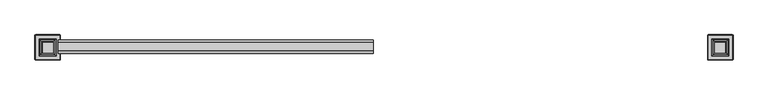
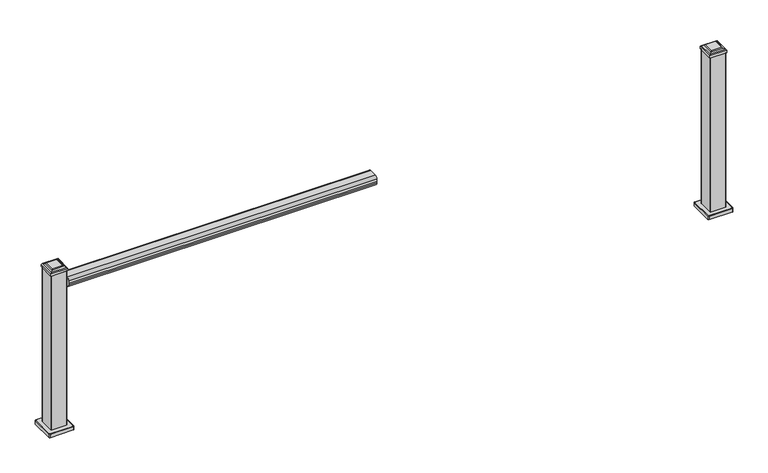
"""IFC4 building model written with IfcOpenShell, lengths in millimetres: railing geometry, NewTechWood - Brazilian Ipe."""

from ifc_helpers import new_model, si_unit, point, frame, frame_2d, origin, place, context, project, spatial, polyline, circle_curve, ellipse_curve, trimmed, segment, composite_curve, outline, extrude, faceted_brep, source, transform, mapped, element, save
from ifc_brep_helpers import plane_surface, cylinder_surface, revolved_surface, advanced_brep


def railing_560219fa(model_context):
    return source(origin(), model_context, "Body", "SolidModel", [
        extrude(outline(composite_curve([segment(polyline([(11543.636591, 859.0161325), (11499.2718146, 859.0161325)]), True, "CONTINUOUS"), segment(trimmed(circle_curve(frame_2d((11499.2718146, 875.7552917)), 16.7391591), [point((11499.2718146, 859.0161325))], [point((11482.5326554, 875.7552917))], False, "CARTESIAN"), True, "CONTINUOUS"), segment(polyline([(11482.5326554, 875.7552917), (11482.5326554, 885.3278473)]), True, "CONTINUOUS"), segment(trimmed(circle_curve(frame_2d((11469.6196989, 891.6660673)), 14.3846265), [point((11482.5326554, 885.3278473))], [point((11482.0441367, 898.9152621))], True, "CARTESIAN"), True, "CONTINUOUS"), segment(trimmed(circle_curve(frame_2d((11497.612742, 898.9152621)), 15.5686053), [point((11482.0441367, 898.9152621))], [point((11497.612742, 914.4838675))], False, "CARTESIAN"), True, "CONTINUOUS"), segment(polyline([(11497.612742, 914.4838675), (11545.2956636, 914.4838675)]), True, "CONTINUOUS"), segment(trimmed(circle_curve(frame_2d((11545.2956636, 898.9152621)), 15.5686053), [point((11545.2956636, 914.4838675))], [point((11560.8642689, 898.9152621))], False, "CARTESIAN"), True, "CONTINUOUS"), segment(trimmed(circle_curve(frame_2d((11573.2887067, 891.6660673)), 14.3846265), [point((11560.8642689, 898.9152621))], [point((11560.3757501, 885.3278473))], True, "CARTESIAN"), True, "CONTINUOUS"), segment(polyline([(11560.3757501, 885.3278473), (11560.3757501, 875.7552917)]), True, "CONTINUOUS"), segment(trimmed(circle_curve(frame_2d((11543.636591, 875.7552917)), 16.7391591), [point((11560.3757501, 875.7552917))], [point((11543.636591, 859.0161325))], False, "CARTESIAN"), True, "CONTINUOUS")], self_intersect=False)), frame((29718.291138, 0.0, 0.0), z_axis=(1.0, 0.0, 0.0), x_axis=(0.0, 1.0, 0.0)), (0.0, 0.0, 1.0), 1799.0),
        advanced_brep(
        [(33570.3131693, 11447.5944784, 22.5), (33573.4727366, 11450.7540458, 22.5), (33573.4727366, 11585.4340458, 22.5), (33570.3131693, 11588.5936132, 22.5), (33435.6331693, 11588.5936132, 22.5), (33432.4736019, 11585.4340458, 22.5), (33432.4736019, 11450.7540458, 22.5), (33435.6331693, 11447.5944784, 22.5), (33430.4731693, 11585.4340458, 0.0), (33435.6331693, 11590.5940458, 0.0), (33570.3131693, 11590.5940458, 0.0), (33575.4731693, 11585.4340458, 0.0), (33575.4731693, 11450.7540458, 0.0), (33570.3131693, 11445.5940458, 0.0), (33435.6331693, 11445.5940458, 0.0), (33430.4731693, 11450.7540458, 0.0), (33430.4731693, 11450.7540458, 20.4995674), (33430.4731693, 11585.4340458, 20.4995674), (33435.6331693, 11445.5940458, 20.499569), (33570.3131693, 11445.5940458, 20.499569), (33575.4731693, 11450.7540458, 20.4995691), (33575.4731693, 11585.4340458, 20.4995674), (33570.3131693, 11590.5940458, 20.4995692), (33435.6331693, 11590.5940458, 20.4995674)],
        [
            (0, 1, circle_curve(frame((33570.3131693, 11450.7540458, 22.5), z_axis=(0.0, 0.0, 1.0), x_axis=(0.0, -1.0, 0.0)), 3.1595674)),
            (1, 2),
            (2, 3, circle_curve(frame((33570.3131693, 11585.4340458, 22.5), z_axis=(0.0, 0.0, 1.0), x_axis=(1.0, 0.0, 0.0)), 3.1595674)),
            (3, 4),
            (4, 5, circle_curve(frame((33435.6331693, 11585.4340458, 22.5), z_axis=(0.0, 0.0, 1.0), x_axis=(0.0, 1.0, 0.0)), 3.1595674)),
            (5, 6),
            (6, 7, circle_curve(frame((33435.6331693, 11450.7540458, 22.5), z_axis=(0.0, 0.0, 1.0), x_axis=(-1.0, 0.0, 0.0)), 3.1595674)),
            (7, 0),
            (8, 9, circle_curve(frame((33435.6331693, 11585.4340458, 0.0), z_axis=(0.0, 0.0, -1.0), x_axis=(0.0, 1.0, 0.0)), 5.16)),
            (9, 10),
            (10, 11, circle_curve(frame((33570.3131693, 11585.4340458, 0.0), z_axis=(0.0, 0.0, -1.0), x_axis=(0.0, 1.0, 0.0)), 5.16)),
            (11, 12),
            (12, 13, circle_curve(frame((33570.3131693, 11450.7540458, 0.0), z_axis=(0.0, 0.0, -1.0), x_axis=(0.0, 1.0, 0.0)), 5.16)),
            (13, 14),
            (14, 15, circle_curve(frame((33435.6331693, 11450.7540458, 0.0), z_axis=(0.0, 0.0, -1.0), x_axis=(0.0, 1.0, 0.0)), 5.16)),
            (15, 8),
            (15, 16),
            (16, 17),
            (17, 8),
            (14, 18),
            (18, 16, circle_curve(frame((33435.6331693, 11450.7540458, 20.4995674), z_axis=(0.0, 0.0, -1.0), x_axis=(0.0, 1.0, 0.0)), 5.16)),
            (13, 19),
            (19, 18),
            (12, 20),
            (20, 19, circle_curve(frame((33570.3131693, 11450.7540458, 20.4995674), z_axis=(0.0, 0.0, -1.0), x_axis=(0.0, 1.0, 0.0)), 5.16)),
            (11, 21),
            (21, 20),
            (10, 22),
            (22, 21, circle_curve(frame((33570.3131693, 11585.4340458, 20.4995674), z_axis=(0.0, 0.0, -1.0), x_axis=(0.0, 1.0, 0.0)), 5.16)),
            (9, 23),
            (23, 22),
            (17, 23, circle_curve(frame((33435.6331693, 11585.4340458, 20.4995674), z_axis=(0.0, 0.0, -1.0), x_axis=(0.0, 1.0, 0.0)), 5.16)),
            (20, 1, circle_curve(frame((33573.4727366, 11450.7540458, 20.4995674), z_axis=(0.0, -1.0, 0.0), x_axis=(-1.0, 0.0, 0.0)), 2.0004326)),
            (0, 19, circle_curve(frame((33570.3131693, 11447.5944784, 20.4995674), z_axis=(1.0, 0.0, 0.0), x_axis=(0.0, 1.0, 0.0)), 2.0004326)),
            (21, 2, circle_curve(frame((33573.4727366, 11585.4340458, 20.4995674), z_axis=(0.0, -1.0, 0.0), x_axis=(-1.0, 0.0, 0.0)), 2.0004326)),
            (22, 3, circle_curve(frame((33570.3131693, 11588.5936132, 20.4995674), z_axis=(1.0, 0.0, 0.0), x_axis=(0.0, -1.0, 0.0)), 2.0004326)),
            (23, 4, circle_curve(frame((33435.6331693, 11588.5936132, 20.4995674), z_axis=(1.0, 0.0, 0.0), x_axis=(0.0, -1.0, 0.0)), 2.0004326)),
            (17, 5, circle_curve(frame((33432.4736019, 11585.4340458, 20.4995674), z_axis=(0.0, 1.0, 0.0), x_axis=(1.0, 0.0, 0.0)), 2.0004326)),
            (16, 6, circle_curve(frame((33432.4736019, 11450.7540458, 20.4995674), z_axis=(0.0, 1.0, 0.0), x_axis=(1.0, 0.0, 0.0)), 2.0004326)),
            (18, 7, circle_curve(frame((33435.6331693, 11447.5944784, 20.4995674), z_axis=(-1.0, 0.0, 0.0), x_axis=(0.0, 1.0, 0.0)), 2.0004326)),
        ],
        [
            plane_surface(frame((33430.4731693, 11558.658052, 22.5), z_axis=(0.0, 0.0, 1.0), x_axis=(0.0, -1.0, 0.0))),
            plane_surface(frame((33430.4731693, 11558.658052, 0.0), z_axis=(0.0, 0.0, -1.0), x_axis=(0.0, 1.0, 0.0))),
            plane_surface(frame((33430.4731693, 11585.4340458, 22.5), z_axis=(-1.0, 0.0, 0.0), x_axis=(0.0, 0.0, -1.0))),
            cylinder_surface(frame((33435.6331693, 11450.7540458, 0.0), z_axis=(0.0, 0.0, 1.0), x_axis=(0.0, 1.0, 0.0)), 5.16),
            plane_surface(frame((33435.6331693, 11445.5940458, 22.5), z_axis=(0.0, -1.0, 0.0), x_axis=(0.0, 0.0, -1.0))),
            cylinder_surface(frame((33570.3131693, 11450.7540458, 0.0), z_axis=(0.0, 0.0, 1.0), x_axis=(0.0, 1.0, 0.0)), 5.16),
            plane_surface(frame((33575.4731693, 11450.7540458, 22.5), z_axis=(1.0, 0.0, 0.0), x_axis=(0.0, 0.0, -1.0))),
            cylinder_surface(frame((33570.3131693, 11585.4340458, 0.0), z_axis=(0.0, 0.0, 1.0), x_axis=(0.0, 1.0, 0.0)), 5.16),
            plane_surface(frame((33570.3131693, 11590.5940458, 22.5), z_axis=(0.0, 1.0, 0.0), x_axis=(0.0, 0.0, -1.0))),
            cylinder_surface(frame((33435.6331693, 11585.4340458, 0.0), z_axis=(0.0, 0.0, 1.0), x_axis=(0.0, 1.0, 0.0)), 5.16),
            revolved_surface(trimmed(ellipse_curve(frame((33570.3131693, 11447.5944784, 20.4995674), z_axis=(-1.0, 0.0, 0.0), x_axis=(0.0, 1.0, 0.0)), 2.0004326, 2.0004326), [point((33570.3131693, 11445.5940458, 20.4995674))], [point((33570.3131693, 11447.5944784, 22.5))], True, "CARTESIAN"), (33570.3131693, 11450.7540458, 22.5), (0.0, 0.0, 1.0)),
            cylinder_surface(frame((33573.4727366, 11450.7540458, 20.4995674), z_axis=(0.0, 1.0, 0.0), x_axis=(-1.0, 0.0, 0.0)), 2.0004326),
            revolved_surface(trimmed(ellipse_curve(frame((33573.4727366, 11585.4340458, 20.4995674), z_axis=(0.0, -1.0, 0.0), x_axis=(-1.0, 0.0, 0.0)), 2.0004326, 2.0004326), [point((33575.4731693, 11585.4340458, 20.4995674))], [point((33573.4727366, 11585.4340458, 22.5))], True, "CARTESIAN"), (33570.3131693, 11585.4340458, 22.5), (0.0, 0.0, 1.0)),
            cylinder_surface(frame((33570.3131693, 11588.5936132, 20.4995674), z_axis=(-1.0, 0.0, 0.0), x_axis=(0.0, -1.0, 0.0)), 2.0004326),
            revolved_surface(trimmed(ellipse_curve(frame((33435.6331693, 11588.5936132, 20.4995674), z_axis=(1.0, 0.0, 0.0), x_axis=(0.0, -1.0, 0.0)), 2.0004326, 2.0004326), [point((33435.6331693, 11590.5940458, 20.4995674))], [point((33435.6331693, 11588.5936132, 22.5))], True, "CARTESIAN"), (33435.6331693, 11585.4340458, 22.5), (0.0, 0.0, 1.0)),
            cylinder_surface(frame((33432.4736019, 11585.4340458, 20.4995674), z_axis=(0.0, -1.0, 0.0), x_axis=(1.0, 0.0, 0.0)), 2.0004326),
            revolved_surface(trimmed(ellipse_curve(frame((33432.4736019, 11450.7540458, 20.4995674), z_axis=(0.0, 1.0, 0.0), x_axis=(1.0, 0.0, 0.0)), 2.0004326, 2.0004326), [point((33430.4731693, 11450.7540458, 20.4995674))], [point((33432.4736019, 11450.7540458, 22.5))], True, "CARTESIAN"), (33435.6331693, 11450.7540458, 22.5), (0.0, 0.0, 1.0)),
            cylinder_surface(frame((33435.6331693, 11447.5944784, 20.4995674), z_axis=(1.0, 0.0, 0.0), x_axis=(0.0, 1.0, 0.0)), 2.0004326),
        ],
        [
            (0, [[1, 2, 3, 4, 5, 6, 7, 8]]),
            (1, [[9, 10, 11, 12, 13, 14, 15, 16]]),
            (2, [[-16, 17, 18, 19]]),
            (3, [[-15, 20, 21, -17]]),
            (4, [[-14, 22, 23, -20]]),
            (5, [[-13, 24, 25, -22]]),
            (6, [[-12, 26, 27, -24]]),
            (7, [[-11, 28, 29, -26]]),
            (8, [[-10, 30, 31, -28]]),
            (9, [[-9, -19, 32, -30]]),
            (10, [[33, -1, 34, -25]]),
            (11, [[-33, -27, 35, -2]]),
            (12, [[-35, -29, 36, -3]]),
            (13, [[-36, -31, 37, -4]]),
            (14, [[-37, -32, 38, -5]]),
            (15, [[-38, -18, 39, -6]]),
            (16, [[-39, -21, 40, -7]]),
            (17, [[-34, -8, -40, -23]]),
        ],
    ),
        faceted_brep([(33552.0231693, 11469.0440458, 990.769699), (33552.0231693, 11469.0440458, 976.139699), (33552.0231693, 11567.1440458, 976.139699), (33552.0231693, 11567.1440458, 990.769699), (33547.9904932, 11473.0767219, 996.0825536), (33547.9904932, 11563.1113697, 996.0825536), (33538.7653855, 11482.3018295, 1000.5958992), (33538.7653855, 11553.886262, 1000.5958992), (33534.2686181, 11486.7985969, 1004.4), (33534.2686181, 11549.3894946, 1004.4), (33453.9231693, 11567.1440458, 976.139699), (33453.9231693, 11567.1440458, 990.769699), (33457.9558454, 11563.1113697, 996.0825536), (33467.180953, 11553.886262, 1000.5958992), (33471.6777204, 11549.3894946, 1004.4), (33453.9231693, 11469.0440458, 976.139699), (33453.9231693, 11469.0440458, 990.769699), (33457.9558454, 11473.0767219, 996.0825536), (33467.180953, 11482.3018295, 1000.5958992), (33471.6777204, 11486.7985969, 1004.4)], [[[0, 1, 2, 3]], [[4, 0, 3, 5]], [[6, 4, 5, 7]], [[8, 6, 7, 9]], [[3, 2, 10, 11]], [[5, 3, 11, 12]], [[7, 5, 12, 13]], [[9, 7, 13, 14]], [[11, 10, 15, 16]], [[12, 11, 16, 17]], [[13, 12, 17, 18]], [[14, 13, 18, 19]], [[16, 15, 1, 0]], [[17, 16, 0, 4]], [[18, 17, 4, 6]], [[19, 18, 6, 8]], [[9, 14, 19, 8]], [[1, 15, 10, 2]]]),
        extrude(outline(composite_curve([segment(trimmed(circle_curve(frame_2d((33459.3831693, 11474.5040458)), 3.61), [point((33459.3831693, 11470.8940458))], [point((33455.7731693, 11474.5040458))], False, "CARTESIAN"), True, "CONTINUOUS"), segment(polyline([(33455.7731693, 11474.5040458), (33455.7731693, 11561.6840458)]), True, "CONTINUOUS"), segment(trimmed(circle_curve(frame_2d((33459.3831693, 11561.6840458)), 3.61), [point((33455.7731693, 11561.6840458))], [point((33459.3831693, 11565.2940458))], False, "CARTESIAN"), True, "CONTINUOUS"), segment(polyline([(33459.3831693, 11565.2940458), (33546.5631693, 11565.2940458)]), True, "CONTINUOUS"), segment(trimmed(circle_curve(frame_2d((33546.5631693, 11561.6840458)), 3.61), [point((33546.5631693, 11565.2940458))], [point((33550.1731693, 11561.6840458))], False, "CARTESIAN"), True, "CONTINUOUS"), segment(polyline([(33550.1731693, 11561.6840458), (33550.1731693, 11474.5040458)]), True, "CONTINUOUS"), segment(trimmed(circle_curve(frame_2d((33546.5631693, 11474.5040458)), 3.61), [point((33550.1731693, 11474.5040458))], [point((33546.5631693, 11470.8940458))], False, "CARTESIAN"), True, "CONTINUOUS"), segment(polyline([(33546.5631693, 11470.8940458), (33459.3831693, 11470.8940458)]), True, "CONTINUOUS")], self_intersect=False)), frame((0.0, 0.0, 22.5), z_axis=(0.0, 0.0, 1.0), x_axis=(1.0, 0.0, 0.0)), (0.0, 0.0, 1.0), 953.639699),
        advanced_brep(
        [(29723.4037943, 11447.5944784, 22.5), (29726.5633616, 11450.7540458, 22.5), (29726.5633616, 11585.4340458, 22.5), (29723.4037943, 11588.5936132, 22.5), (29588.7237943, 11588.5936132, 22.5), (29585.5642269, 11585.4340458, 22.5), (29585.5642269, 11450.7540458, 22.5), (29588.7237943, 11447.5944784, 22.5), (29583.5637943, 11585.4340458, 0.0), (29588.7237943, 11590.5940458, 0.0), (29723.4037943, 11590.5940458, 0.0), (29728.5637943, 11585.4340458, 0.0), (29728.5637943, 11450.7540458, 0.0), (29723.4037943, 11445.5940458, 0.0), (29588.7237943, 11445.5940458, 0.0), (29583.5637943, 11450.7540458, 0.0), (29583.5637943, 11450.7540458, 20.4995674), (29583.5637943, 11585.4340458, 20.4995674), (29588.7237943, 11445.5940458, 20.499569), (29723.4037943, 11445.5940458, 20.499569), (29728.5637943, 11450.7540458, 20.4995691), (29728.5637943, 11585.4340458, 20.4995674), (29723.4037943, 11590.5940458, 20.4995692), (29588.7237943, 11590.5940458, 20.4995674)],
        [
            (0, 1, circle_curve(frame((29723.4037943, 11450.7540458, 22.5), z_axis=(0.0, 0.0, 1.0), x_axis=(0.0, -1.0, 0.0)), 3.1595674)),
            (1, 2),
            (2, 3, circle_curve(frame((29723.4037943, 11585.4340458, 22.5), z_axis=(0.0, 0.0, 1.0), x_axis=(1.0, 0.0, 0.0)), 3.1595674)),
            (3, 4),
            (4, 5, circle_curve(frame((29588.7237943, 11585.4340458, 22.5), z_axis=(0.0, 0.0, 1.0), x_axis=(0.0, 1.0, 0.0)), 3.1595674)),
            (5, 6),
            (6, 7, circle_curve(frame((29588.7237943, 11450.7540458, 22.5), z_axis=(0.0, 0.0, 1.0), x_axis=(-1.0, 0.0, 0.0)), 3.1595674)),
            (7, 0),
            (8, 9, circle_curve(frame((29588.7237943, 11585.4340458, 0.0), z_axis=(0.0, 0.0, -1.0), x_axis=(0.0, 1.0, 0.0)), 5.16)),
            (9, 10),
            (10, 11, circle_curve(frame((29723.4037943, 11585.4340458, 0.0), z_axis=(0.0, 0.0, -1.0), x_axis=(0.0, 1.0, 0.0)), 5.16)),
            (11, 12),
            (12, 13, circle_curve(frame((29723.4037943, 11450.7540458, 0.0), z_axis=(0.0, 0.0, -1.0), x_axis=(0.0, 1.0, 0.0)), 5.16)),
            (13, 14),
            (14, 15, circle_curve(frame((29588.7237943, 11450.7540458, 0.0), z_axis=(0.0, 0.0, -1.0), x_axis=(0.0, 1.0, 0.0)), 5.16)),
            (15, 8),
            (15, 16),
            (16, 17),
            (17, 8),
            (14, 18),
            (18, 16, circle_curve(frame((29588.7237943, 11450.7540458, 20.4995674), z_axis=(0.0, 0.0, -1.0), x_axis=(0.0, 1.0, 0.0)), 5.16)),
            (13, 19),
            (19, 18),
            (12, 20),
            (20, 19, circle_curve(frame((29723.4037943, 11450.7540458, 20.4995674), z_axis=(0.0, 0.0, -1.0), x_axis=(0.0, 1.0, 0.0)), 5.16)),
            (11, 21),
            (21, 20),
            (10, 22),
            (22, 21, circle_curve(frame((29723.4037943, 11585.4340458, 20.4995674), z_axis=(0.0, 0.0, -1.0), x_axis=(0.0, 1.0, 0.0)), 5.16)),
            (9, 23),
            (23, 22),
            (17, 23, circle_curve(frame((29588.7237943, 11585.4340458, 20.4995674), z_axis=(0.0, 0.0, -1.0), x_axis=(0.0, 1.0, 0.0)), 5.16)),
            (20, 1, circle_curve(frame((29726.5633616, 11450.7540458, 20.4995674), z_axis=(0.0, -1.0, 0.0), x_axis=(-1.0, 0.0, 0.0)), 2.0004326)),
            (0, 19, circle_curve(frame((29723.4037943, 11447.5944784, 20.4995674), z_axis=(1.0, 0.0, 0.0), x_axis=(0.0, 1.0, 0.0)), 2.0004326)),
            (21, 2, circle_curve(frame((29726.5633616, 11585.4340458, 20.4995674), z_axis=(0.0, -1.0, 0.0), x_axis=(-1.0, 0.0, 0.0)), 2.0004326)),
            (22, 3, circle_curve(frame((29723.4037943, 11588.5936132, 20.4995674), z_axis=(1.0, 0.0, 0.0), x_axis=(0.0, -1.0, 0.0)), 2.0004326)),
            (23, 4, circle_curve(frame((29588.7237943, 11588.5936132, 20.4995674), z_axis=(1.0, 0.0, 0.0), x_axis=(0.0, -1.0, 0.0)), 2.0004326)),
            (17, 5, circle_curve(frame((29585.5642269, 11585.4340458, 20.4995674), z_axis=(0.0, 1.0, 0.0), x_axis=(1.0, 0.0, 0.0)), 2.0004326)),
            (16, 6, circle_curve(frame((29585.5642269, 11450.7540458, 20.4995674), z_axis=(0.0, 1.0, 0.0), x_axis=(1.0, 0.0, 0.0)), 2.0004326)),
            (18, 7, circle_curve(frame((29588.7237943, 11447.5944784, 20.4995674), z_axis=(-1.0, 0.0, 0.0), x_axis=(0.0, 1.0, 0.0)), 2.0004326)),
        ],
        [
            plane_surface(frame((29583.5637943, 11558.658052, 22.5), z_axis=(0.0, 0.0, 1.0), x_axis=(0.0, -1.0, 0.0))),
            plane_surface(frame((29583.5637943, 11558.658052, 0.0), z_axis=(0.0, 0.0, -1.0), x_axis=(0.0, 1.0, 0.0))),
            plane_surface(frame((29583.5637943, 11585.4340458, 22.5), z_axis=(-1.0, 0.0, 0.0), x_axis=(0.0, 0.0, -1.0))),
            cylinder_surface(frame((29588.7237943, 11450.7540458, 0.0), z_axis=(0.0, 0.0, 1.0), x_axis=(0.0, 1.0, 0.0)), 5.16),
            plane_surface(frame((29588.7237943, 11445.5940458, 22.5), z_axis=(0.0, -1.0, 0.0), x_axis=(0.0, 0.0, -1.0))),
            cylinder_surface(frame((29723.4037943, 11450.7540458, 0.0), z_axis=(0.0, 0.0, 1.0), x_axis=(0.0, 1.0, 0.0)), 5.16),
            plane_surface(frame((29728.5637943, 11450.7540458, 22.5), z_axis=(1.0, 0.0, 0.0), x_axis=(0.0, 0.0, -1.0))),
            cylinder_surface(frame((29723.4037943, 11585.4340458, 0.0), z_axis=(0.0, 0.0, 1.0), x_axis=(0.0, 1.0, 0.0)), 5.16),
            plane_surface(frame((29723.4037943, 11590.5940458, 22.5), z_axis=(0.0, 1.0, 0.0), x_axis=(0.0, 0.0, -1.0))),
            cylinder_surface(frame((29588.7237943, 11585.4340458, 0.0), z_axis=(0.0, 0.0, 1.0), x_axis=(0.0, 1.0, 0.0)), 5.16),
            revolved_surface(trimmed(ellipse_curve(frame((29723.4037943, 11447.5944784, 20.4995674), z_axis=(-1.0, 0.0, 0.0), x_axis=(0.0, 1.0, 0.0)), 2.0004326, 2.0004326), [point((29723.4037943, 11445.5940458, 20.4995674))], [point((29723.4037943, 11447.5944784, 22.5))], True, "CARTESIAN"), (29723.4037943, 11450.7540458, 22.5), (0.0, 0.0, 1.0)),
            cylinder_surface(frame((29726.5633616, 11450.7540458, 20.4995674), z_axis=(0.0, 1.0, 0.0), x_axis=(-1.0, 0.0, 0.0)), 2.0004326),
            revolved_surface(trimmed(ellipse_curve(frame((29726.5633616, 11585.4340458, 20.4995674), z_axis=(0.0, -1.0, 0.0), x_axis=(-1.0, 0.0, 0.0)), 2.0004326, 2.0004326), [point((29728.5637943, 11585.4340458, 20.4995674))], [point((29726.5633616, 11585.4340458, 22.5))], True, "CARTESIAN"), (29723.4037943, 11585.4340458, 22.5), (0.0, 0.0, 1.0)),
            cylinder_surface(frame((29723.4037943, 11588.5936132, 20.4995674), z_axis=(-1.0, 0.0, 0.0), x_axis=(0.0, -1.0, 0.0)), 2.0004326),
            revolved_surface(trimmed(ellipse_curve(frame((29588.7237943, 11588.5936132, 20.4995674), z_axis=(1.0, 0.0, 0.0), x_axis=(0.0, -1.0, 0.0)), 2.0004326, 2.0004326), [point((29588.7237943, 11590.5940458, 20.4995674))], [point((29588.7237943, 11588.5936132, 22.5))], True, "CARTESIAN"), (29588.7237943, 11585.4340458, 22.5), (0.0, 0.0, 1.0)),
            cylinder_surface(frame((29585.5642269, 11585.4340458, 20.4995674), z_axis=(0.0, -1.0, 0.0), x_axis=(1.0, 0.0, 0.0)), 2.0004326),
            revolved_surface(trimmed(ellipse_curve(frame((29585.5642269, 11450.7540458, 20.4995674), z_axis=(0.0, 1.0, 0.0), x_axis=(1.0, 0.0, 0.0)), 2.0004326, 2.0004326), [point((29583.5637943, 11450.7540458, 20.4995674))], [point((29585.5642269, 11450.7540458, 22.5))], True, "CARTESIAN"), (29588.7237943, 11450.7540458, 22.5), (0.0, 0.0, 1.0)),
            cylinder_surface(frame((29588.7237943, 11447.5944784, 20.4995674), z_axis=(1.0, 0.0, 0.0), x_axis=(0.0, 1.0, 0.0)), 2.0004326),
        ],
        [
            (0, [[1, 2, 3, 4, 5, 6, 7, 8]]),
            (1, [[9, 10, 11, 12, 13, 14, 15, 16]]),
            (2, [[-16, 17, 18, 19]]),
            (3, [[-15, 20, 21, -17]]),
            (4, [[-14, 22, 23, -20]]),
            (5, [[-13, 24, 25, -22]]),
            (6, [[-12, 26, 27, -24]]),
            (7, [[-11, 28, 29, -26]]),
            (8, [[-10, 30, 31, -28]]),
            (9, [[-9, -19, 32, -30]]),
            (10, [[33, -1, 34, -25]]),
            (11, [[-33, -27, 35, -2]]),
            (12, [[-35, -29, 36, -3]]),
            (13, [[-36, -31, 37, -4]]),
            (14, [[-37, -32, 38, -5]]),
            (15, [[-38, -18, 39, -6]]),
            (16, [[-39, -21, 40, -7]]),
            (17, [[-34, -8, -40, -23]]),
        ],
    ),
        faceted_brep([(29705.1137943, 11469.0440458, 990.769699), (29705.1137943, 11469.0440458, 976.139699), (29705.1137943, 11567.1440458, 976.139699), (29705.1137943, 11567.1440458, 990.769699), (29701.0811182, 11473.0767219, 996.0825536), (29701.0811182, 11563.1113697, 996.0825536), (29691.8560105, 11482.3018295, 1000.5958992), (29691.8560105, 11553.886262, 1000.5958992), (29687.3592431, 11486.7985969, 1004.4), (29687.3592431, 11549.3894946, 1004.4), (29607.0137943, 11567.1440458, 976.139699), (29607.0137943, 11567.1440458, 990.769699), (29611.0464704, 11563.1113697, 996.0825536), (29620.271578, 11553.886262, 1000.5958992), (29624.7683454, 11549.3894946, 1004.4), (29607.0137943, 11469.0440458, 976.139699), (29607.0137943, 11469.0440458, 990.769699), (29611.0464704, 11473.0767219, 996.0825536), (29620.271578, 11482.3018295, 1000.5958992), (29624.7683454, 11486.7985969, 1004.4)], [[[0, 1, 2, 3]], [[4, 0, 3, 5]], [[6, 4, 5, 7]], [[8, 6, 7, 9]], [[3, 2, 10, 11]], [[5, 3, 11, 12]], [[7, 5, 12, 13]], [[9, 7, 13, 14]], [[11, 10, 15, 16]], [[12, 11, 16, 17]], [[13, 12, 17, 18]], [[14, 13, 18, 19]], [[16, 15, 1, 0]], [[17, 16, 0, 4]], [[18, 17, 4, 6]], [[19, 18, 6, 8]], [[9, 14, 19, 8]], [[1, 15, 10, 2]]]),
        extrude(outline(composite_curve([segment(trimmed(circle_curve(frame_2d((29612.4737943, 11474.5040458)), 3.61), [point((29612.4737943, 11470.8940458))], [point((29608.8637943, 11474.5040458))], False, "CARTESIAN"), True, "CONTINUOUS"), segment(polyline([(29608.8637943, 11474.5040458), (29608.8637943, 11561.6840458)]), True, "CONTINUOUS"), segment(trimmed(circle_curve(frame_2d((29612.4737943, 11561.6840458)), 3.61), [point((29608.8637943, 11561.6840458))], [point((29612.4737943, 11565.2940458))], False, "CARTESIAN"), True, "CONTINUOUS"), segment(polyline([(29612.4737943, 11565.2940458), (29699.6537943, 11565.2940458)]), True, "CONTINUOUS"), segment(trimmed(circle_curve(frame_2d((29699.6537943, 11561.6840458)), 3.61), [point((29699.6537943, 11565.2940458))], [point((29703.2637943, 11561.6840458))], False, "CARTESIAN"), True, "CONTINUOUS"), segment(polyline([(29703.2637943, 11561.6840458), (29703.2637943, 11474.5040458)]), True, "CONTINUOUS"), segment(trimmed(circle_curve(frame_2d((29699.6537943, 11474.5040458)), 3.61), [point((29703.2637943, 11474.5040458))], [point((29699.6537943, 11470.8940458))], False, "CARTESIAN"), True, "CONTINUOUS"), segment(polyline([(29699.6537943, 11470.8940458), (29612.4737943, 11470.8940458)]), True, "CONTINUOUS")], self_intersect=False)), frame((0.0, 0.0, 22.5), z_axis=(0.0, 0.0, 1.0), x_axis=(1.0, 0.0, 0.0)), (0.0, 0.0, 1.0), 953.639699),
    ])


if __name__ == "__main__":
    model = new_model("IFC4")
    model_context = context("Model", 3, world=origin())
    ifc_project = project(units=[si_unit("LENGTHUNIT", "METRE", prefix="MILLI")], contexts=[model_context])
    site = spatial("IfcSite", under=ifc_project)
    building = spatial("IfcBuilding", under=site)
    placement = place(None, origin())
    railing_shape = railing_560219fa(model_context)
    element("IfcRailing", 1, ObjectType="NewTechWood - Brazilian Ipe", at=placement, inside=building, context=model_context, shape_type="MappedRepresentation", body=[
        mapped(railing_shape, transform((0.0, 0.0, 0.0), x_axis=(1.0, 0.0, 0.0), y_axis=(0.0, 1.0, 0.0), z_axis=(0.0, 0.0, 1.0))),
    ])
    save(model, "model.ifc")
